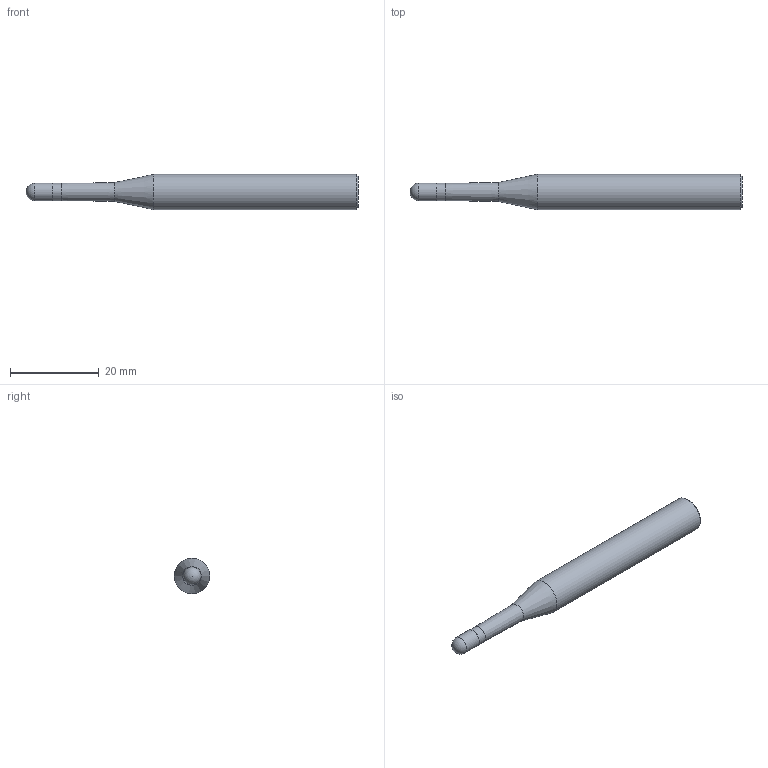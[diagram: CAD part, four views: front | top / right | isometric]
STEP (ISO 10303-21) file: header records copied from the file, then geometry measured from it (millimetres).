
FILE_DESCRIPTION(/* description */ (''),/* implementation_level */ '2;1');
FILE_NAME(/* name */ 'HGXPB2040-20-T0.9 0875.stp',/* time_stamp */ '2026-01-23T15:54:24+08:00',/* author */ (''),/* organization */ (''),/* preprocessor_version */ 'ST-DEVELOPER v16',/* originating_system */ 'SIEMENS PLM Software NX 10.0',/* authorisation */ '');
FILE_SCHEMA (('CONFIG_CONTROL_DESIGN'));
Length unit declared in the file: millimetre
Products named in the file (1): HGXPB2040-20-T0.9 0875_dxf
Bounding box: 75 x 8 x 8 mm (x, y, z)
Volume: 2838.1 mm3; surface area: 1633.7 mm2
Topology: 1 solids, 1 shells, 9 faces, 17 edges, 10 vertices
Faces by surface type: cylinder 3, cone 3, plane 2, sphere 1
Full cylindrical faces by diameter (mm): 3.9 x1, 4 x1, 8 x1
Entity records: 258 total; most frequent: DIRECTION 36, CARTESIAN_POINT 26, AXIS2_PLACEMENT_3D 18, EDGE_LOOP 16, ORIENTED_EDGE 16, FACE_BOUND 14, ADVANCED_FACE 9, VERTEX_POINT 8
